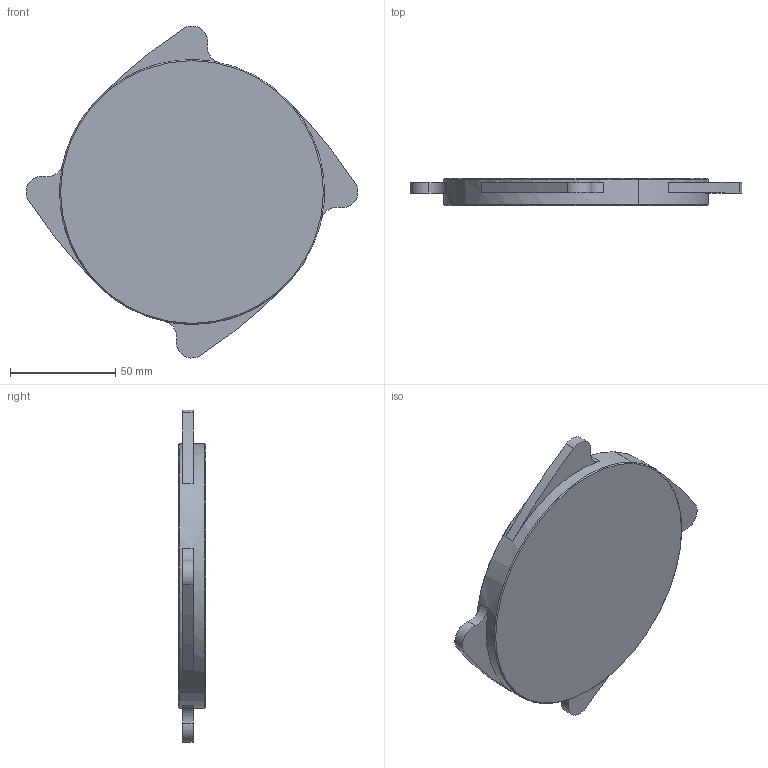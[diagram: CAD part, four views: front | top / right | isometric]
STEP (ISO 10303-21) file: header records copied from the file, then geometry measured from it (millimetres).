
FILE_DESCRIPTION( (''), '2;1');
FILE_NAME ('PC1276.13840.CF-60 80A_12356.stp','2025-12-10T12:53:49',(''),(''),'spGate 20.6.3 (****-****-****-****)','','');
FILE_SCHEMA (('AUTOMOTIVE_DESIGN'));
Length unit declared in the file: millimetre
Bounding box: 157.95 x 13 x 157.95 mm (x, y, z)
Volume: 170196.1 mm3; surface area: 33491.7 mm2
Topology: 1 solids, 1 shells, 28 faces, 66 edges, 44 vertices
Faces by surface type: cylinder 14, plane 10, bspline 4
Entity records: 1409 total; most frequent: CARTESIAN_POINT 192, DIRECTION 144, ORIENTED_EDGE 132, COLOUR_RGB 95, PRESENTATION_STYLE_ASSIGNMENT 95, STYLED_ITEM 95, EDGE_CURVE 66, DRAUGHTING_PRE_DEFINED_CURVE_FONT 66
